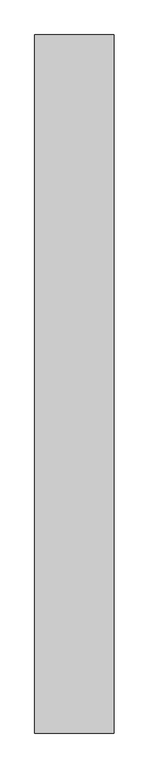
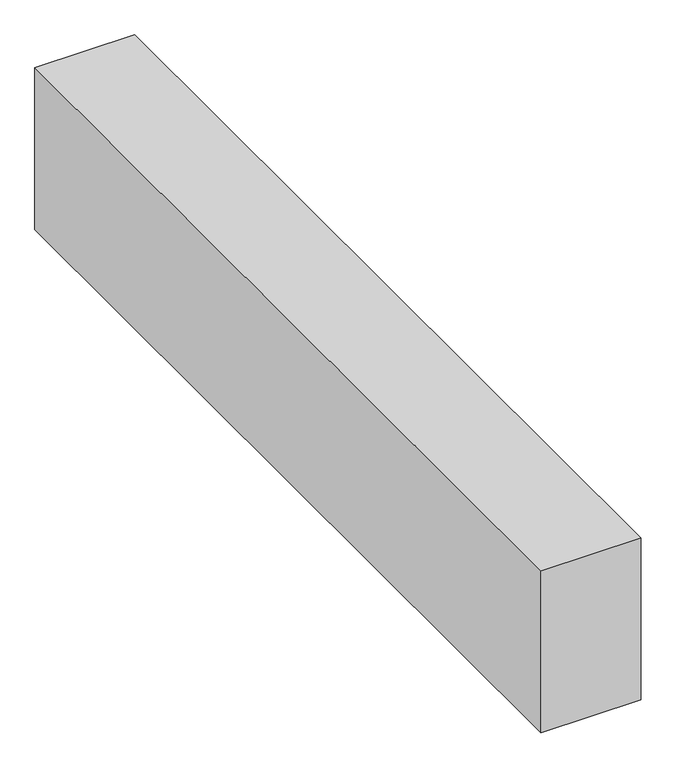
"""IFC4 building model written with IfcOpenShell, lengths in millimetres: beam geometry, 梁下部増打2 : 梁下部増打1."""

from ifc_helpers import new_model, si_unit, origin, place, context, project, spatial, faceted_brep, source, transform, mapped, element, save


def beam_9e31209b(model_context):
    return source(origin(), model_context, "Body", "Brep", [
        faceted_brep([(4144.0, 20875.0, -850.0), (4494.0, 20875.0, -850.0), (4494.0, 23950.0, -850.0), (4144.0, 23950.0, -850.0), (4144.0, 20875.0, -1450.0), (4144.0, 23950.0, -1450.0), (4494.0, 23950.0, -1450.0), (4494.0, 21125.0, -1450.0), (4494.0, 20875.0, -1450.0), (4494.0, 23950.0, -1250.0)], [[[0, 1, 2, 3]], [[4, 5, 6, 7, 8]], [[1, 0, 4, 8]], [[2, 1, 8, 7, 6, 9]], [[3, 2, 9, 6, 5]], [[0, 3, 5, 4]]]),
    ])


if __name__ == "__main__":
    model = new_model("IFC4")
    model_context = context("Model", 3, world=origin())
    ifc_project = project(units=[si_unit("LENGTHUNIT", "METRE", prefix="MILLI")], contexts=[model_context])
    site = spatial("IfcSite", under=ifc_project)
    building = spatial("IfcBuilding", under=site)
    placement = place(None, origin())
    beam_shape = beam_9e31209b(model_context)
    element("IfcBeam", 1, ObjectType="梁下部増打2 : 梁下部増打1", at=placement, inside=building, context=model_context, shape_type="MappedRepresentation", body=[
        mapped(beam_shape, transform((0.0, 0.0, 0.0), x_axis=(1.0, 0.0, 0.0), y_axis=(0.0, 1.0, 0.0), z_axis=(0.0, 0.0, 1.0))),
    ])
    save(model, "model.ifc")
